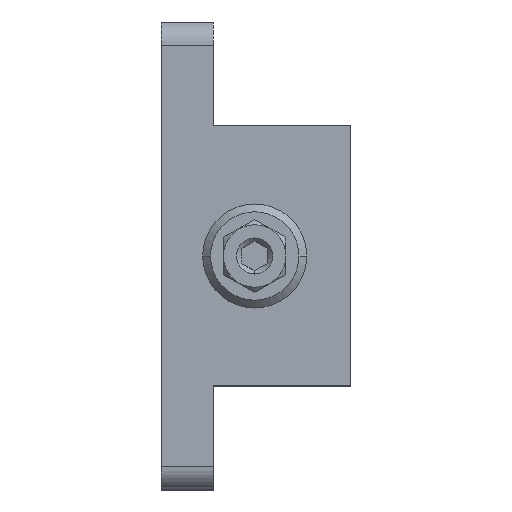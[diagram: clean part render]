
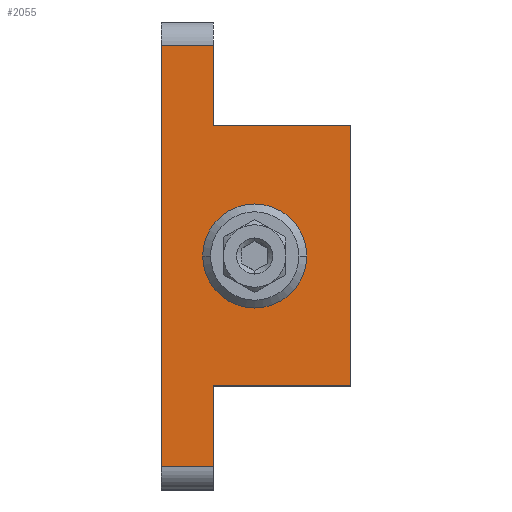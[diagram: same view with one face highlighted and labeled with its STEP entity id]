
A CAD part, left-side view. The second image highlights one B-rep face of the part: STEP entity #2055.
In plain terms, the highlighted planar face has unit normal (-1, 0, 0).
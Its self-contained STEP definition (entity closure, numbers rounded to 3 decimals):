
#28 = LINE ( 'NONE', #895, #1246 ) ;
#86 = CARTESIAN_POINT ( 'NONE',  ( -8., 18., -40.5 ) ) ;
#107 = CARTESIAN_POINT ( 'NONE',  ( -8., -18.5, -25. ) ) ;
#111 = CARTESIAN_POINT ( 'NONE',  ( -8., 8., 40.5 ) ) ;
#227 = CARTESIAN_POINT ( 'NONE',  ( -8., 8., 25. ) ) ;
#266 = DIRECTION ( 'NONE',  ( 0., 0., 1. ) ) ;
#275 = EDGE_CURVE ( 'NONE', #1558, #2787, #1939, .T. ) ;
#292 = VECTOR ( 'NONE', #868, 1000. ) ;
#339 = DIRECTION ( 'NONE',  ( 0., 0., -1. ) ) ;
#345 = CARTESIAN_POINT ( 'NONE',  ( -8., 8., -40.5 ) ) ;
#406 = CARTESIAN_POINT ( 'NONE',  ( -8., 8., 40.5 ) ) ;
#431 = DIRECTION ( 'NONE',  ( 0., 0., 1. ) ) ;
#468 = EDGE_CURVE ( 'NONE', #2479, #2590, #28, .T. ) ;
#492 = VECTOR ( 'NONE', #2280, 1000. ) ;
#494 = VECTOR ( 'NONE', #339, 1000. ) ;
#572 = ORIENTED_EDGE ( 'NONE', *, *, #1220, .T. ) ;
#632 = DIRECTION ( 'NONE',  ( 0., 1., 0. ) ) ;
#668 = VERTEX_POINT ( 'NONE', #1829 ) ;
#671 = CARTESIAN_POINT ( 'NONE',  ( -8., 8., 25. ) ) ;
#709 = CARTESIAN_POINT ( 'NONE',  ( -8., -18.5, -25. ) ) ;
#715 = CARTESIAN_POINT ( 'NONE',  ( -8., 18., 40.5 ) ) ;
#730 = LINE ( 'NONE', #107, #2113 ) ;
#868 = DIRECTION ( 'NONE',  ( 0., 0., 1. ) ) ;
#875 = CARTESIAN_POINT ( 'NONE',  ( -8., 8., -40.5 ) ) ;
#878 = EDGE_CURVE ( 'NONE', #668, #1430, #1472, .T. ) ;
#894 = EDGE_CURVE ( 'NONE', #2787, #1771, #2325, .T. ) ;
#895 = CARTESIAN_POINT ( 'NONE',  ( -8., -18.5, -25. ) ) ;
#965 = DIRECTION ( 'NONE',  ( 0., 1., 0. ) ) ;
#980 = EDGE_CURVE ( 'NONE', #1771, #2346, #1113, .T. ) ;
#1113 = LINE ( 'NONE', #1398, #494 ) ;
#1144 = DIRECTION ( 'NONE',  ( -1., 0., 0. ) ) ;
#1175 = VECTOR ( 'NONE', #1203, 1000. ) ;
#1203 = DIRECTION ( 'NONE',  ( 0., -1., 0. ) ) ;
#1220 = EDGE_CURVE ( 'NONE', #2346, #1430, #2257, .T. ) ;
#1246 = VECTOR ( 'NONE', #431, 1000. ) ;
#1296 = ORIENTED_EDGE ( 'NONE', *, *, #275, .T. ) ;
#1351 = ORIENTED_EDGE ( 'NONE', *, *, #2013, .F. ) ;
#1397 = AXIS2_PLACEMENT_3D ( 'NONE', #1822, #1144, #266 ) ;
#1398 = CARTESIAN_POINT ( 'NONE',  ( -8., 18., 45. ) ) ;
#1430 = VERTEX_POINT ( 'NONE', #875 ) ;
#1472 = LINE ( 'NONE', #2077, #492 ) ;
#1558 = VERTEX_POINT ( 'NONE', #671 ) ;
#1763 = ORIENTED_EDGE ( 'NONE', *, *, #468, .T. ) ;
#1771 = VERTEX_POINT ( 'NONE', #715 ) ;
#1803 = PLANE ( 'NONE',  #1397 ) ;
#1822 = CARTESIAN_POINT ( 'NONE',  ( -8., 8., 45. ) ) ;
#1829 = CARTESIAN_POINT ( 'NONE',  ( -8., 8., -25. ) ) ;
#1866 = EDGE_LOOP ( 'NONE', ( #2243, #572, #2165, #1351, #1763, #2267, #1296, #2387 ) ) ;
#1939 = LINE ( 'NONE', #227, #292 ) ;
#2013 = EDGE_CURVE ( 'NONE', #2479, #668, #730, .T. ) ;
#2055 = ADVANCED_FACE ( 'NONE', ( #2443 ), #1803, .T. ) ;
#2077 = CARTESIAN_POINT ( 'NONE',  ( -8., 8., -25. ) ) ;
#2110 = CARTESIAN_POINT ( 'NONE',  ( -8., -18.5, 25. ) ) ;
#2113 = VECTOR ( 'NONE', #965, 1000. ) ;
#2165 = ORIENTED_EDGE ( 'NONE', *, *, #878, .F. ) ;
#2243 = ORIENTED_EDGE ( 'NONE', *, *, #980, .T. ) ;
#2257 = LINE ( 'NONE', #345, #1175 ) ;
#2267 = ORIENTED_EDGE ( 'NONE', *, *, #2541, .T. ) ;
#2280 = DIRECTION ( 'NONE',  ( 0., 0., -1. ) ) ;
#2319 = LINE ( 'NONE', #2110, #2425 ) ;
#2325 = LINE ( 'NONE', #406, #2414 ) ;
#2346 = VERTEX_POINT ( 'NONE', #86 ) ;
#2387 = ORIENTED_EDGE ( 'NONE', *, *, #894, .T. ) ;
#2414 = VECTOR ( 'NONE', #632, 1000. ) ;
#2425 = VECTOR ( 'NONE', #2737, 1000. ) ;
#2443 = FACE_OUTER_BOUND ( 'NONE', #1866, .T. ) ;
#2479 = VERTEX_POINT ( 'NONE', #709 ) ;
#2541 = EDGE_CURVE ( 'NONE', #2590, #1558, #2319, .T. ) ;
#2590 = VERTEX_POINT ( 'NONE', #2780 ) ;
#2737 = DIRECTION ( 'NONE',  ( 0., 1., 0. ) ) ;
#2780 = CARTESIAN_POINT ( 'NONE',  ( -8., -18.5, 25. ) ) ;
#2787 = VERTEX_POINT ( 'NONE', #111 ) ;
